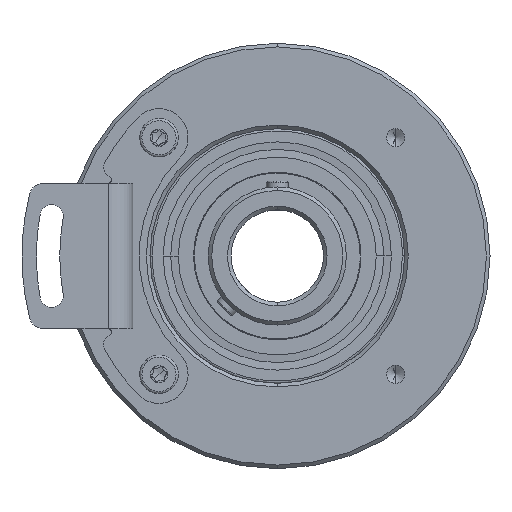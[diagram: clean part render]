
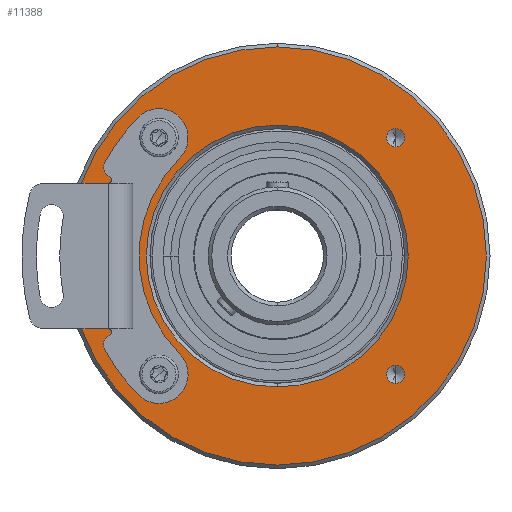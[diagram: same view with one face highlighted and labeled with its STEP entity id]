
A CAD part, front view. The second image highlights one B-rep face of the part: STEP entity #11388.
In plain terms, the highlighted planar face has unit normal (0, -1, 0).
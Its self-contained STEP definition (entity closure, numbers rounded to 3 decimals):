
#45 = EDGE_CURVE ( 'NONE', #4387, #1965, #13078, .T. ) ;
#263 = CARTESIAN_POINT ( 'NONE',  ( 16.263, 0., -17.513 ) ) ;
#350 = CARTESIAN_POINT ( 'NONE',  ( 0., 0., 18. ) ) ;
#408 = CARTESIAN_POINT ( 'NONE',  ( 16.263, 0., -15.013 ) ) ;
#449 = CARTESIAN_POINT ( 'NONE',  ( -16.263, 0., 15.013 ) ) ;
#649 = AXIS2_PLACEMENT_3D ( 'NONE', #13998, #5761, #13918 ) ;
#717 = CARTESIAN_POINT ( 'NONE',  ( 16.263, 0., -16.263 ) ) ;
#722 = FACE_BOUND ( 'NONE', #16624, .T. ) ;
#1434 = VERTEX_POINT ( 'NONE', #3025 ) ;
#1445 = CARTESIAN_POINT ( 'NONE',  ( 0., 0., 0. ) ) ;
#1460 = AXIS2_PLACEMENT_3D ( 'NONE', #7366, #8221, #3693 ) ;
#1537 = CARTESIAN_POINT ( 'NONE',  ( 0., 0., 0. ) ) ;
#1647 = CIRCLE ( 'NONE', #18592, 1.25 ) ;
#1651 = EDGE_CURVE ( 'NONE', #18456, #7858, #3500, .T. ) ;
#1965 = VERTEX_POINT ( 'NONE', #15391 ) ;
#2384 = DIRECTION ( 'NONE',  ( 0., 0., -1. ) ) ;
#2538 = EDGE_CURVE ( 'NONE', #12930, #11970, #1647, .T. ) ;
#2570 = CARTESIAN_POINT ( 'NONE',  ( 0., 0., -18. ) ) ;
#2699 = ORIENTED_EDGE ( 'NONE', *, *, #14811, .F. ) ;
#2877 = DIRECTION ( 'NONE',  ( 0., 0., -1. ) ) ;
#3025 = CARTESIAN_POINT ( 'NONE',  ( 16.263, 0., 17.513 ) ) ;
#3032 = FACE_BOUND ( 'NONE', #6845, .T. ) ;
#3333 = DIRECTION ( 'NONE',  ( 0., -1., 0. ) ) ;
#3365 = AXIS2_PLACEMENT_3D ( 'NONE', #17765, #6271, #2877 ) ;
#3500 = CIRCLE ( 'NONE', #18564, 1.25 ) ;
#3599 = CIRCLE ( 'NONE', #14155, 1.25 ) ;
#3693 = DIRECTION ( 'NONE',  ( 0., 0., -1. ) ) ;
#3749 = EDGE_CURVE ( 'NONE', #7858, #18456, #17728, .T. ) ;
#4125 = CARTESIAN_POINT ( 'NONE',  ( -16.263, 0., -16.263 ) ) ;
#4173 = CIRCLE ( 'NONE', #14951, 18. ) ;
#4306 = ORIENTED_EDGE ( 'NONE', *, *, #17837, .T. ) ;
#4387 = VERTEX_POINT ( 'NONE', #10772 ) ;
#4526 = DIRECTION ( 'NONE',  ( 0., 0., -1. ) ) ;
#4881 = VERTEX_POINT ( 'NONE', #2570 ) ;
#4915 = EDGE_CURVE ( 'NONE', #9767, #8205, #16845, .T. ) ;
#4984 = ORIENTED_EDGE ( 'NONE', *, *, #45, .T. ) ;
#5229 = DIRECTION ( 'NONE',  ( 0., 0., -1. ) ) ;
#5761 = DIRECTION ( 'NONE',  ( 0., -1., 0. ) ) ;
#5897 = EDGE_CURVE ( 'NONE', #18045, #1434, #13125, .T. ) ;
#5955 = ORIENTED_EDGE ( 'NONE', *, *, #2538, .F. ) ;
#6271 = DIRECTION ( 'NONE',  ( 0., -1., 0. ) ) ;
#6399 = FACE_BOUND ( 'NONE', #19404, .T. ) ;
#6400 = DIRECTION ( 'NONE',  ( 0., -1., 0. ) ) ;
#6419 = DIRECTION ( 'NONE',  ( 0., -1., 0. ) ) ;
#6845 = EDGE_LOOP ( 'NONE', ( #11316, #5955 ) ) ;
#7047 = CARTESIAN_POINT ( 'NONE',  ( 16.263, 0., -16.263 ) ) ;
#7082 = DIRECTION ( 'NONE',  ( 0., -1., 0. ) ) ;
#7182 = FACE_BOUND ( 'NONE', #8415, .T. ) ;
#7209 = DIRECTION ( 'NONE',  ( 0., -1., 0. ) ) ;
#7366 = CARTESIAN_POINT ( 'NONE',  ( 0., 0., 0. ) ) ;
#7728 = AXIS2_PLACEMENT_3D ( 'NONE', #1537, #3333, #9777 ) ;
#7858 = VERTEX_POINT ( 'NONE', #449 ) ;
#8205 = VERTEX_POINT ( 'NONE', #13979 ) ;
#8221 = DIRECTION ( 'NONE',  ( 0., -1., 0. ) ) ;
#8264 = ORIENTED_EDGE ( 'NONE', *, *, #3749, .F. ) ;
#8415 = EDGE_LOOP ( 'NONE', ( #4306, #18914 ) ) ;
#8814 = CARTESIAN_POINT ( 'NONE',  ( -16.263, 0., 16.263 ) ) ;
#9189 = ORIENTED_EDGE ( 'NONE', *, *, #4915, .F. ) ;
#9660 = CARTESIAN_POINT ( 'NONE',  ( 16.263, 0., 16.263 ) ) ;
#9753 = CIRCLE ( 'NONE', #1460, 28.75 ) ;
#9767 = VERTEX_POINT ( 'NONE', #16034 ) ;
#9777 = DIRECTION ( 'NONE',  ( 0., 0., -1. ) ) ;
#10292 = FACE_BOUND ( 'NONE', #15016, .T. ) ;
#10455 = EDGE_CURVE ( 'NONE', #13383, #4881, #11060, .T. ) ;
#10473 = DIRECTION ( 'NONE',  ( 0., -1., 0. ) ) ;
#10772 = CARTESIAN_POINT ( 'NONE',  ( 0., 0., 28.75 ) ) ;
#11060 = CIRCLE ( 'NONE', #13683, 18. ) ;
#11312 = DIRECTION ( 'NONE',  ( 0., 0., -1. ) ) ;
#11316 = ORIENTED_EDGE ( 'NONE', *, *, #13832, .F. ) ;
#11359 = PLANE ( 'NONE',  #7728 ) ;
#11388 = ADVANCED_FACE ( 'NONE', ( #7182, #10292, #6399, #722, #3032, #17263 ), #11359, .T. ) ;
#11970 = VERTEX_POINT ( 'NONE', #263 ) ;
#12461 = ORIENTED_EDGE ( 'NONE', *, *, #1651, .F. ) ;
#12780 = EDGE_LOOP ( 'NONE', ( #4984, #18126 ) ) ;
#12930 = VERTEX_POINT ( 'NONE', #408 ) ;
#13078 = CIRCLE ( 'NONE', #14096, 28.75 ) ;
#13125 = CIRCLE ( 'NONE', #18813, 1.25 ) ;
#13383 = VERTEX_POINT ( 'NONE', #350 ) ;
#13626 = CARTESIAN_POINT ( 'NONE',  ( -16.263, 0., -16.263 ) ) ;
#13653 = CIRCLE ( 'NONE', #19753, 1.25 ) ;
#13683 = AXIS2_PLACEMENT_3D ( 'NONE', #1445, #14455, #4526 ) ;
#13832 = EDGE_CURVE ( 'NONE', #11970, #12930, #3599, .T. ) ;
#13918 = DIRECTION ( 'NONE',  ( 0., 0., -1. ) ) ;
#13979 = CARTESIAN_POINT ( 'NONE',  ( -16.263, 0., -15.013 ) ) ;
#13998 = CARTESIAN_POINT ( 'NONE',  ( 16.263, 0., 16.263 ) ) ;
#14096 = AXIS2_PLACEMENT_3D ( 'NONE', #17918, #6419, #19878 ) ;
#14136 = DIRECTION ( 'NONE',  ( 0., 0., -1. ) ) ;
#14155 = AXIS2_PLACEMENT_3D ( 'NONE', #7047, #16795, #5229 ) ;
#14455 = DIRECTION ( 'NONE',  ( 0., 1., 0. ) ) ;
#14811 = EDGE_CURVE ( 'NONE', #8205, #9767, #13653, .T. ) ;
#14951 = AXIS2_PLACEMENT_3D ( 'NONE', #17490, #19099, #15950 ) ;
#15016 = EDGE_LOOP ( 'NONE', ( #8264, #12461 ) ) ;
#15193 = EDGE_CURVE ( 'NONE', #1965, #4387, #9753, .T. ) ;
#15369 = DIRECTION ( 'NONE',  ( 0., 0., -1. ) ) ;
#15391 = CARTESIAN_POINT ( 'NONE',  ( 0., 0., -28.75 ) ) ;
#15436 = DIRECTION ( 'NONE',  ( 0., 0., -1. ) ) ;
#15479 = CIRCLE ( 'NONE', #649, 1.25 ) ;
#15708 = DIRECTION ( 'NONE',  ( 0., -1., 0. ) ) ;
#15950 = DIRECTION ( 'NONE',  ( 0., 0., -1. ) ) ;
#16034 = CARTESIAN_POINT ( 'NONE',  ( -16.263, 0., -17.513 ) ) ;
#16624 = EDGE_LOOP ( 'NONE', ( #9189, #2699 ) ) ;
#16795 = DIRECTION ( 'NONE',  ( 0., -1., 0. ) ) ;
#16845 = CIRCLE ( 'NONE', #19487, 1.25 ) ;
#17263 = FACE_OUTER_BOUND ( 'NONE', #12780, .T. ) ;
#17490 = CARTESIAN_POINT ( 'NONE',  ( 0., 0., 0. ) ) ;
#17728 = CIRCLE ( 'NONE', #3365, 1.25 ) ;
#17765 = CARTESIAN_POINT ( 'NONE',  ( -16.263, 0., 16.263 ) ) ;
#17837 = EDGE_CURVE ( 'NONE', #4881, #13383, #4173, .T. ) ;
#17918 = CARTESIAN_POINT ( 'NONE',  ( 0., 0., 0. ) ) ;
#18045 = VERTEX_POINT ( 'NONE', #19781 ) ;
#18126 = ORIENTED_EDGE ( 'NONE', *, *, #15193, .T. ) ;
#18437 = CARTESIAN_POINT ( 'NONE',  ( -16.263, 0., 17.513 ) ) ;
#18456 = VERTEX_POINT ( 'NONE', #18437 ) ;
#18564 = AXIS2_PLACEMENT_3D ( 'NONE', #8814, #10473, #15436 ) ;
#18592 = AXIS2_PLACEMENT_3D ( 'NONE', #717, #7082, #2384 ) ;
#18813 = AXIS2_PLACEMENT_3D ( 'NONE', #9660, #6400, #11312 ) ;
#18914 = ORIENTED_EDGE ( 'NONE', *, *, #10455, .T. ) ;
#19099 = DIRECTION ( 'NONE',  ( 0., 1., 0. ) ) ;
#19289 = ORIENTED_EDGE ( 'NONE', *, *, #5897, .F. ) ;
#19404 = EDGE_LOOP ( 'NONE', ( #19289, #20448 ) ) ;
#19487 = AXIS2_PLACEMENT_3D ( 'NONE', #4125, #15708, #14136 ) ;
#19753 = AXIS2_PLACEMENT_3D ( 'NONE', #13626, #7209, #15369 ) ;
#19781 = CARTESIAN_POINT ( 'NONE',  ( 16.263, 0., 15.013 ) ) ;
#19878 = DIRECTION ( 'NONE',  ( 0., 0., -1. ) ) ;
#20448 = ORIENTED_EDGE ( 'NONE', *, *, #20900, .F. ) ;
#20900 = EDGE_CURVE ( 'NONE', #1434, #18045, #15479, .T. ) ;
